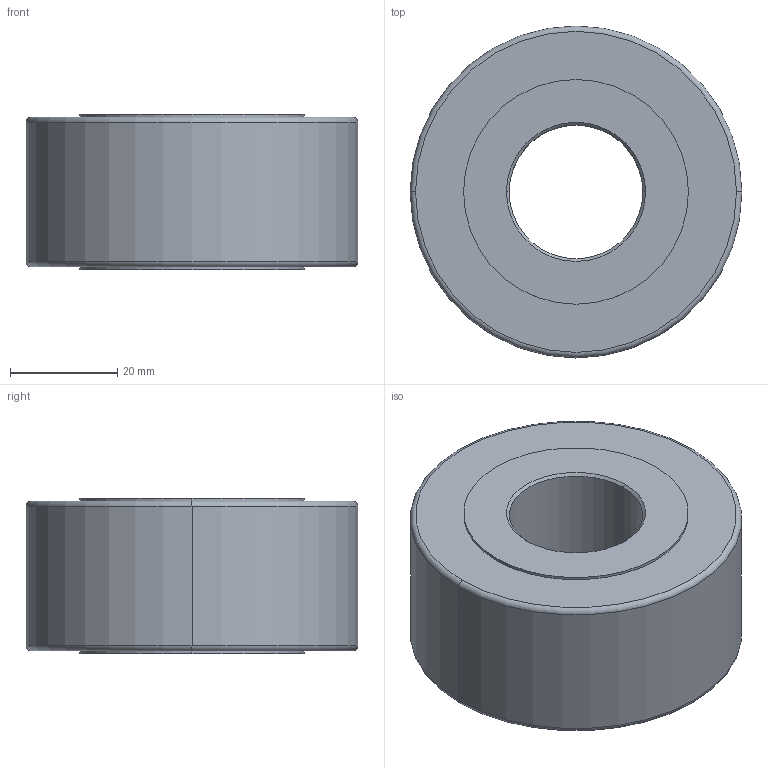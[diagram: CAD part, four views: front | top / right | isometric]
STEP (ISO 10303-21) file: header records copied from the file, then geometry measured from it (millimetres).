
FILE_DESCRIPTION (( 'STEP AP214' ), '1' );
FILE_NAME ('3DNUTR30-62.STEP', '2013-12-18T09:18:31', ( 'usuario' ), ( 'Hewlett-Packard Company' ), 'SwSTEP 2.0', 'SolidWorks 2017', '' );
FILE_SCHEMA (( 'AUTOMOTIVE_DESIGN' ));
Length unit declared in the file: millimetre
Products named in the file (1): 3DNUTR30-62
Bounding box: 62 x 62 x 29 mm (x, y, z)
Volume: 71581.2 mm3; surface area: 12706.4 mm2
Topology: 1 solids, 1 shells, 20 faces, 40 edges, 24 vertices
Faces by surface type: cylinder 8, cone 4, torus 4, plane 4
Entity records: 566 total; most frequent: DIRECTION 110, CARTESIAN_POINT 85, ORIENTED_EDGE 80, AXIS2_PLACEMENT_3D 49, EDGE_CURVE 40, CIRCLE 28, VERTEX_POINT 24, EDGE_LOOP 24
